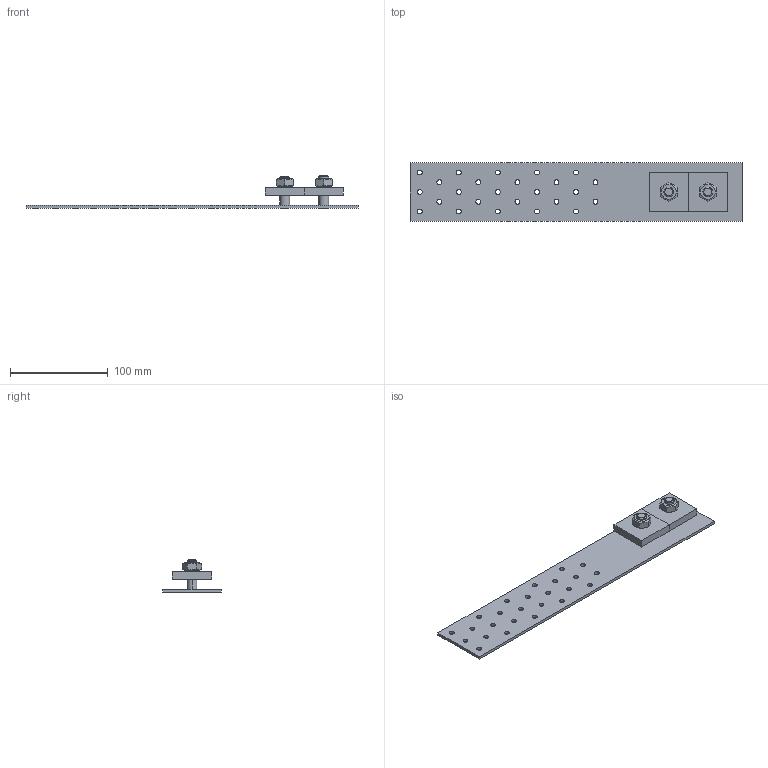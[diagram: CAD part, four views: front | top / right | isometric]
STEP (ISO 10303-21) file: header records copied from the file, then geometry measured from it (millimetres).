
FILE_DESCRIPTION (( 'STEP AP203' ), '1' );
FILE_NAME ('11090344.STEP', '2020-04-02T14:11:06', ( '' ), ( '' ), 'SwSTEP 2.0', 'SolidWorks 2013', '' );
FILE_SCHEMA (( 'CONFIG_CONTROL_DESIGN' ));
Length unit declared in the file: millimetre
Products named in the file (6): Mutter M10 DIN 934; 11090344; Zuglasche 2 Bolzen; Stehbolzen; Druckplatte; Zuglasche_Grundplatine
Assembly tree (8 placements, depth 3):
  11090344
    Zuglasche 2 Bolzen
      Zuglasche_Grundplatine
      Stehbolzen
    Druckplatte  x2
    Mutter M10 DIN 934  x2
    Stehbolzen
Bounding box: 340 x 60 x 33 mm (x, y, z)
Volume: 91584.9 mm3; surface area: 56705.6 mm2
Topology: 7 solids, 7 shells, 126 faces, 320 edges, 208 vertices
Faces by surface type: cylinder 64, plane 38, cone 24
Entity records: 3860 total; most frequent: CARTESIAN_POINT 644, DIRECTION 564, ORIENTED_EDGE 488, EDGE_CURVE 244, AXIS2_PLACEMENT_3D 232, VERTEX_POINT 160, EDGE_LOOP 148, CIRCLE 128
